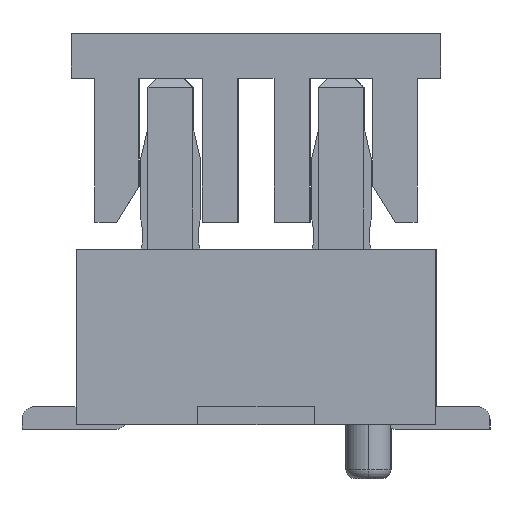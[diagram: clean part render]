
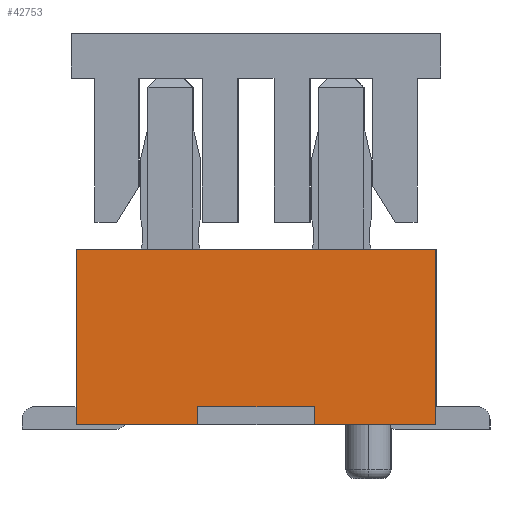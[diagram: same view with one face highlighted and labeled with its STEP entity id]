
A CAD part, left-side view. The second image highlights one B-rep face of the part: STEP entity #42753.
In plain terms, the highlighted planar face has unit normal (-1, 0, 0).
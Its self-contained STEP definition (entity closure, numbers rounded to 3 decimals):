
#4246 = CARTESIAN_POINT ( 'NONE',  ( -4.95, -0.65, 0.2 ) ) ;
#4590 = LINE ( 'NONE', #44097, #118445 ) ;
#5136 = VERTEX_POINT ( 'NONE', #4246 ) ;
#6158 = CARTESIAN_POINT ( 'NONE',  ( -4.95, 1.325, 0. ) ) ;
#8382 = CARTESIAN_POINT ( 'NONE',  ( -4.95, 0., 1.95 ) ) ;
#8840 = VECTOR ( 'NONE', #121828, 1000. ) ;
#11731 = VERTEX_POINT ( 'NONE', #35808 ) ;
#12195 = EDGE_LOOP ( 'NONE', ( #116133, #35346, #48724, #80165, #55348, #15260, #76887, #93788 ) ) ;
#12598 = EDGE_CURVE ( 'NONE', #104369, #88553, #89492, .T. ) ;
#13906 = LINE ( 'NONE', #83881, #37975 ) ;
#13978 = VECTOR ( 'NONE', #61539, 1000. ) ;
#15260 = ORIENTED_EDGE ( 'NONE', *, *, #52139, .F. ) ;
#17457 = DIRECTION ( 'NONE',  ( 0., -1., 0. ) ) ;
#17754 = VECTOR ( 'NONE', #27295, 1000. ) ;
#18978 = CARTESIAN_POINT ( 'NONE',  ( -4.95, 0.65, 0.1 ) ) ;
#19485 = DIRECTION ( 'NONE',  ( 0., 1., 0. ) ) ;
#22208 = VECTOR ( 'NONE', #127177, 1000. ) ;
#22588 = CARTESIAN_POINT ( 'NONE',  ( -4.95, 2., 0. ) ) ;
#22720 = CARTESIAN_POINT ( 'NONE',  ( -4.95, -2., 0.975 ) ) ;
#23847 = VERTEX_POINT ( 'NONE', #22588 ) ;
#24686 = EDGE_CURVE ( 'NONE', #88553, #75852, #4590, .T. ) ;
#25391 = CARTESIAN_POINT ( 'NONE',  ( -4.95, 0., 0.2 ) ) ;
#27295 = DIRECTION ( 'NONE',  ( 0., 1., 0. ) ) ;
#35346 = ORIENTED_EDGE ( 'NONE', *, *, #46508, .F. ) ;
#35808 = CARTESIAN_POINT ( 'NONE',  ( -4.95, 0.65, 0. ) ) ;
#36528 = DIRECTION ( 'NONE',  ( 0., 0., 1. ) ) ;
#37638 = DIRECTION ( 'NONE',  ( 1., 0., 0. ) ) ;
#37975 = VECTOR ( 'NONE', #36528, 1000. ) ;
#39660 = EDGE_CURVE ( 'NONE', #11731, #101030, #40336, .T. ) ;
#40336 = LINE ( 'NONE', #18978, #22208 ) ;
#41475 = LINE ( 'NONE', #110829, #13978 ) ;
#42753 = ADVANCED_FACE ( 'NONE', ( #88184 ), #48634, .F. ) ;
#44097 = CARTESIAN_POINT ( 'NONE',  ( -4.95, -1.325, 0. ) ) ;
#45440 = LINE ( 'NONE', #25391, #17754 ) ;
#46508 = EDGE_CURVE ( 'NONE', #5136, #101030, #45440, .T. ) ;
#48634 = PLANE ( 'NONE',  #54279 ) ;
#48724 = ORIENTED_EDGE ( 'NONE', *, *, #101314, .F. ) ;
#51366 = VECTOR ( 'NONE', #66366, 1000. ) ;
#52139 = EDGE_CURVE ( 'NONE', #74386, #104369, #66689, .T. ) ;
#54279 = AXIS2_PLACEMENT_3D ( 'NONE', #96631, #37638, #19485 ) ;
#55348 = ORIENTED_EDGE ( 'NONE', *, *, #12598, .F. ) ;
#59439 = CARTESIAN_POINT ( 'NONE',  ( -4.95, -2., 1.95 ) ) ;
#59796 = EDGE_CURVE ( 'NONE', #11731, #23847, #65731, .T. ) ;
#61539 = DIRECTION ( 'NONE',  ( 0., 0., 1. ) ) ;
#65731 = LINE ( 'NONE', #6158, #51366 ) ;
#66366 = DIRECTION ( 'NONE',  ( 0., 1., 0. ) ) ;
#66689 = LINE ( 'NONE', #8382, #74540 ) ;
#74386 = VERTEX_POINT ( 'NONE', #122485 ) ;
#74540 = VECTOR ( 'NONE', #17457, 1000. ) ;
#75852 = VERTEX_POINT ( 'NONE', #104250 ) ;
#76887 = ORIENTED_EDGE ( 'NONE', *, *, #110024, .F. ) ;
#80165 = ORIENTED_EDGE ( 'NONE', *, *, #24686, .F. ) ;
#83881 = CARTESIAN_POINT ( 'NONE',  ( -4.95, 2., 0.975 ) ) ;
#88184 = FACE_OUTER_BOUND ( 'NONE', #12195, .T. ) ;
#88553 = VERTEX_POINT ( 'NONE', #122714 ) ;
#89492 = LINE ( 'NONE', #22720, #8840 ) ;
#93788 = ORIENTED_EDGE ( 'NONE', *, *, #59796, .F. ) ;
#96631 = CARTESIAN_POINT ( 'NONE',  ( -4.95, 0., 0. ) ) ;
#101030 = VERTEX_POINT ( 'NONE', #113502 ) ;
#101314 = EDGE_CURVE ( 'NONE', #75852, #5136, #41475, .T. ) ;
#104250 = CARTESIAN_POINT ( 'NONE',  ( -4.95, -0.65, 0. ) ) ;
#104369 = VERTEX_POINT ( 'NONE', #59439 ) ;
#110024 = EDGE_CURVE ( 'NONE', #23847, #74386, #13906, .T. ) ;
#110829 = CARTESIAN_POINT ( 'NONE',  ( -4.95, -0.65, 0.1 ) ) ;
#113502 = CARTESIAN_POINT ( 'NONE',  ( -4.95, 0.65, 0.2 ) ) ;
#114060 = DIRECTION ( 'NONE',  ( 0., 1., 0. ) ) ;
#116133 = ORIENTED_EDGE ( 'NONE', *, *, #39660, .T. ) ;
#118445 = VECTOR ( 'NONE', #114060, 1000. ) ;
#121828 = DIRECTION ( 'NONE',  ( 0., 0., -1. ) ) ;
#122485 = CARTESIAN_POINT ( 'NONE',  ( -4.95, 2., 1.95 ) ) ;
#122714 = CARTESIAN_POINT ( 'NONE',  ( -4.95, -2., 0. ) ) ;
#127177 = DIRECTION ( 'NONE',  ( 0., 0., 1. ) ) ;
